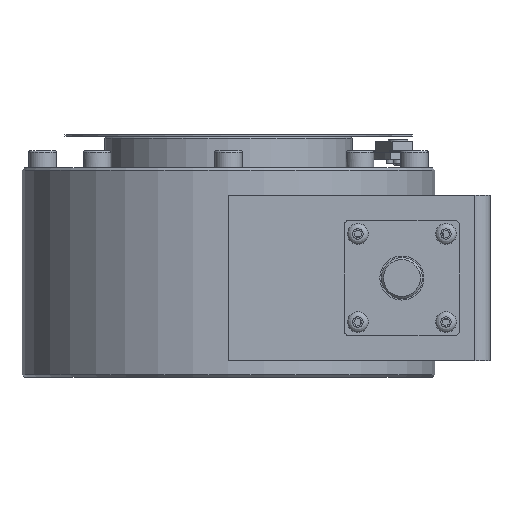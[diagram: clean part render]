
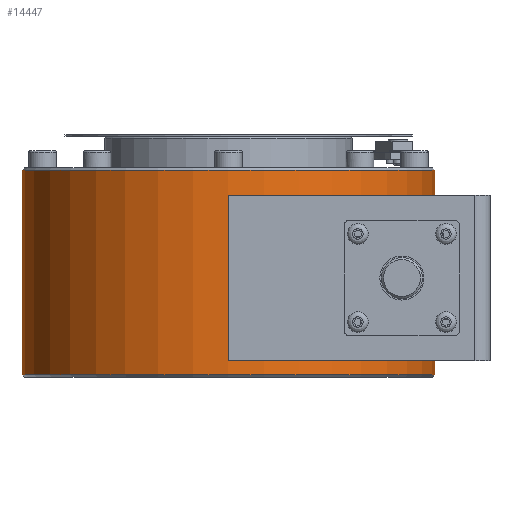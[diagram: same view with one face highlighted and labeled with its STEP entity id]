
A CAD part, left-side view. The second image highlights one B-rep face of the part: STEP entity #14447.
In plain terms, the highlighted cylindrical face has radius 75 mm (diameter 150 mm), a full revolution.
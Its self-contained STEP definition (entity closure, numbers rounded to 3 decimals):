
#1331=CYLINDRICAL_SURFACE('',#15631,75.);
#1574=FACE_OUTER_BOUND('',#2417,.T.);
#2417=EDGE_LOOP('',(#10241,#10242,#10243,#10244,#10245,#10246,#10247,#10248,
#10249,#10250,#10251));
#3452=LINE('',#21802,#4742);
#3453=LINE('',#21806,#4743);
#3454=LINE('',#21809,#4744);
#3455=LINE('',#21810,#4745);
#4742=VECTOR('',#17267,75.);
#4743=VECTOR('',#17270,10.);
#4744=VECTOR('',#17273,75.);
#4745=VECTOR('',#17274,10.);
#6032=CIRCLE('',#15630,75.);
#6033=CIRCLE('',#15632,75.);
#6034=CIRCLE('',#15633,75.);
#6035=CIRCLE('',#15634,75.);
#6036=CIRCLE('',#15635,75.);
#6743=VERTEX_POINT('',#21793);
#6744=VERTEX_POINT('',#21797);
#6745=VERTEX_POINT('',#21798);
#6746=VERTEX_POINT('',#21801);
#6747=VERTEX_POINT('',#21803);
#6748=VERTEX_POINT('',#21805);
#6749=VERTEX_POINT('',#21807);
#8155=EDGE_CURVE('',#6743,#6743,#6032,.T.);
#8156=EDGE_CURVE('',#6744,#6745,#6033,.T.);
#8157=EDGE_CURVE('',#6745,#6744,#6034,.T.);
#8158=EDGE_CURVE('',#6745,#6746,#3452,.T.);
#8159=EDGE_CURVE('',#6747,#6746,#6035,.T.);
#8160=EDGE_CURVE('',#6748,#6747,#3453,.T.);
#8161=EDGE_CURVE('',#6749,#6748,#6036,.T.);
#8162=EDGE_CURVE('',#6749,#6743,#3454,.T.);
#8163=EDGE_CURVE('',#6746,#6749,#3455,.T.);
#10241=ORIENTED_EDGE('',*,*,#8156,.F.);
#10242=ORIENTED_EDGE('',*,*,#8157,.F.);
#10243=ORIENTED_EDGE('',*,*,#8158,.T.);
#10244=ORIENTED_EDGE('',*,*,#8159,.F.);
#10245=ORIENTED_EDGE('',*,*,#8160,.F.);
#10246=ORIENTED_EDGE('',*,*,#8161,.F.);
#10247=ORIENTED_EDGE('',*,*,#8162,.T.);
#10248=ORIENTED_EDGE('',*,*,#8155,.F.);
#10249=ORIENTED_EDGE('',*,*,#8162,.F.);
#10250=ORIENTED_EDGE('',*,*,#8163,.F.);
#10251=ORIENTED_EDGE('',*,*,#8158,.F.);
#14447=ADVANCED_FACE('',(#1574),#1331,.T.);
#15630=AXIS2_PLACEMENT_3D('',#21795,#17259,#17260);
#15631=AXIS2_PLACEMENT_3D('',#21796,#17261,#17262);
#15632=AXIS2_PLACEMENT_3D('',#21799,#17263,#17264);
#15633=AXIS2_PLACEMENT_3D('',#21800,#17265,#17266);
#15634=AXIS2_PLACEMENT_3D('',#21804,#17268,#17269);
#15635=AXIS2_PLACEMENT_3D('',#21808,#17271,#17272);
#17259=DIRECTION('center_axis',(0.,0.,-1.));
#17260=DIRECTION('ref_axis',(1.,0.,0.));
#17261=DIRECTION('center_axis',(0.,0.,1.));
#17262=DIRECTION('ref_axis',(1.,0.,0.));
#17263=DIRECTION('center_axis',(0.,0.,1.));
#17264=DIRECTION('ref_axis',(-1.,0.,0.));
#17265=DIRECTION('center_axis',(0.,0.,1.));
#17266=DIRECTION('ref_axis',(-1.,0.,0.));
#17267=DIRECTION('',(0.,0.,-1.));
#17268=DIRECTION('center_axis',(0.,0.,-1.));
#17269=DIRECTION('ref_axis',(-1.,0.,0.));
#17270=DIRECTION('',(0.,0.,1.));
#17271=DIRECTION('center_axis',(0.,0.,1.));
#17272=DIRECTION('ref_axis',(1.,0.,0.));
#17273=DIRECTION('',(0.,0.,-1.));
#17274=DIRECTION('',(0.,0.,-1.));
#21793=CARTESIAN_POINT('',(-75.,0.,-35.2));
#21795=CARTESIAN_POINT('Origin',(0.,0.,-35.2));
#21796=CARTESIAN_POINT('Origin',(0.,0.,0.));
#21797=CARTESIAN_POINT('',(75.,0.,39.2));
#21798=CARTESIAN_POINT('',(-75.,0.,39.2));
#21799=CARTESIAN_POINT('Origin',(0.,0.,39.2));
#21800=CARTESIAN_POINT('Origin',(0.,0.,39.2));
#21801=CARTESIAN_POINT('',(-75.,0.,30.));
#21802=CARTESIAN_POINT('',(-75.,0.,0.));
#21803=CARTESIAN_POINT('',(75.,0.,30.));
#21804=CARTESIAN_POINT('Origin',(0.,0.,30.));
#21805=CARTESIAN_POINT('',(75.,0.,-30.));
#21806=CARTESIAN_POINT('',(75.,0.,0.));
#21807=CARTESIAN_POINT('',(-75.,0.,-30.));
#21808=CARTESIAN_POINT('Origin',(0.,0.,-30.));
#21809=CARTESIAN_POINT('',(-75.,0.,0.));
#21810=CARTESIAN_POINT('',(-75.,0.,0.));
